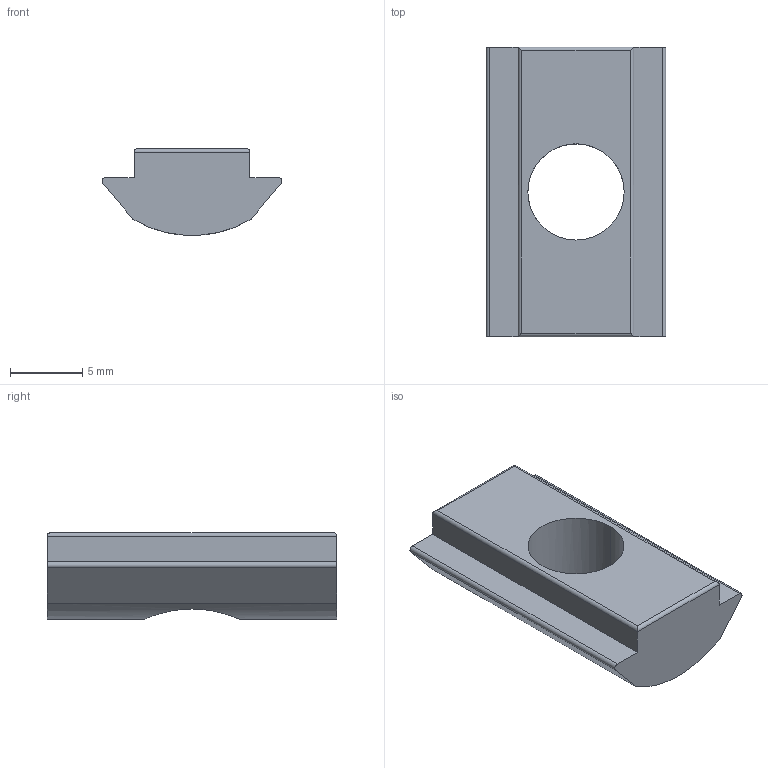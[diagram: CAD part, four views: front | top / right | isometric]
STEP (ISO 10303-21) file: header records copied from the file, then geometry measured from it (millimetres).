
FILE_DESCRIPTION (( 'STEP AP203' ), '1' );
FILE_NAME ('DBSF08M8.STEP', '2018-10-25T03:37:58', ( '' ), ( '' ), 'SwSTEP 2.0', 'SolidWorks 2012', '' );
FILE_SCHEMA (( 'CONFIG_CONTROL_DESIGN' ));
Length unit declared in the file: millimetre
Products named in the file (1): DBSF08M8
Bounding box: 12.43 x 20 x 6 mm (x, y, z)
Volume: 848 mm3; surface area: 788.2 mm2
Topology: 1 solids, 1 shells, 18 faces, 44 edges, 28 vertices
Faces by surface type: cylinder 9, plane 9
Entity records: 667 total; most frequent: CARTESIAN_POINT 169, ORIENTED_EDGE 88, DIRECTION 84, EDGE_CURVE 44, VECTOR 30, LINE 30, VERTEX_POINT 28, AXIS2_PLACEMENT_3D 27
